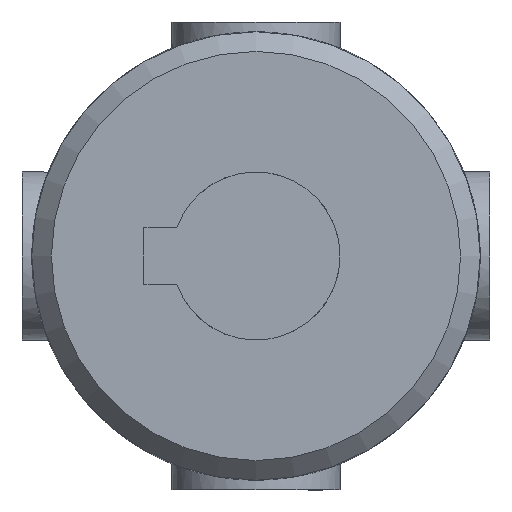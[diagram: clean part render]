
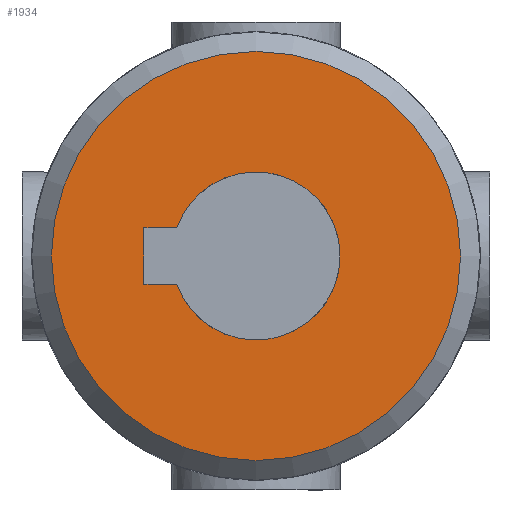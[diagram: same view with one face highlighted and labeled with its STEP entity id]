
A CAD part, front view. The second image highlights one B-rep face of the part: STEP entity #1934.
In plain terms, the highlighted planar face has unit normal (0, -1, 0).
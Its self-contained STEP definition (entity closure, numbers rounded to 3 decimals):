
#124=LINE('',#3526,#191);
#126=LINE('',#3534,#193);
#128=LINE('',#3540,#195);
#191=VECTOR('',#2498,1.172);
#193=VECTOR('',#2502,2.);
#195=VECTOR('',#2506,1.172);
#257=PLANE('',#2118);
#423=FACE_BOUND('',#681,.T.);
#519=FACE_OUTER_BOUND('',#680,.T.);
#680=EDGE_LOOP('',(#1614));
#681=EDGE_LOOP('',(#1615,#1616,#1617,#1618));
#808=CIRCLE('',#2110,3.);
#810=CIRCLE('',#2116,7.3);
#956=VERTEX_POINT('',#3515);
#957=VERTEX_POINT('',#3517);
#959=VERTEX_POINT('',#3525);
#961=VERTEX_POINT('',#3533);
#963=VERTEX_POINT('',#3544);
#1187=EDGE_CURVE('',#957,#956,#808,.T.);
#1190=EDGE_CURVE('',#959,#957,#124,.T.);
#1193=EDGE_CURVE('',#961,#959,#126,.T.);
#1196=EDGE_CURVE('',#956,#961,#128,.T.);
#1198=EDGE_CURVE('',#963,#963,#810,.T.);
#1614=ORIENTED_EDGE('',*,*,#1198,.F.);
#1615=ORIENTED_EDGE('',*,*,#1187,.T.);
#1616=ORIENTED_EDGE('',*,*,#1196,.T.);
#1617=ORIENTED_EDGE('',*,*,#1193,.T.);
#1618=ORIENTED_EDGE('',*,*,#1190,.T.);
#1934=ADVANCED_FACE('',(#519,#423),#257,.F.);
#2110=AXIS2_PLACEMENT_3D('',#3518,#2493,#2494);
#2116=AXIS2_PLACEMENT_3D('',#3545,#2511,#2512);
#2118=AXIS2_PLACEMENT_3D('',#3713,#2519,#2520);
#2493=DIRECTION('center_axis',(0.,1.,0.));
#2494=DIRECTION('ref_axis',(-0.333,0.,0.943));
#2498=DIRECTION('',(0.,0.,1.));
#2502=DIRECTION('',(-1.,0.,0.));
#2506=DIRECTION('',(0.,0.,-1.));
#2511=DIRECTION('center_axis',(0.,1.,0.));
#2512=DIRECTION('ref_axis',(1.,0.,0.));
#2519=DIRECTION('center_axis',(0.,1.,0.));
#2520=DIRECTION('ref_axis',(0.,0.,1.));
#3515=CARTESIAN_POINT('',(1.,-21.,-2.828));
#3517=CARTESIAN_POINT('',(-1.,-21.,-2.828));
#3518=CARTESIAN_POINT('Origin',(0.,-21.,0.));
#3525=CARTESIAN_POINT('',(-1.,-21.,-4.));
#3526=CARTESIAN_POINT('',(-1.,-21.,-2.));
#3533=CARTESIAN_POINT('',(1.,-21.,-4.));
#3534=CARTESIAN_POINT('',(0.5,-21.,-4.));
#3540=CARTESIAN_POINT('',(1.,-21.,-1.414));
#3544=CARTESIAN_POINT('',(-7.3,-21.,0.));
#3545=CARTESIAN_POINT('Origin',(0.,-21.,0.));
#3713=CARTESIAN_POINT('Origin',(0.,-21.,0.));
